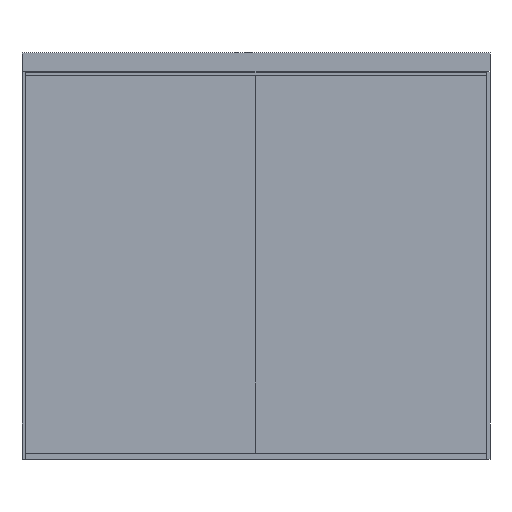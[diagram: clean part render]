
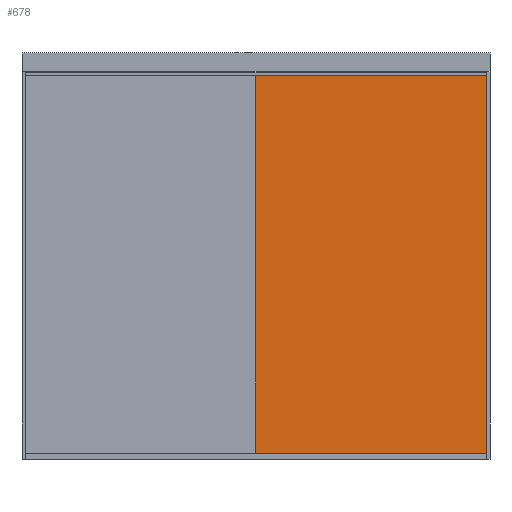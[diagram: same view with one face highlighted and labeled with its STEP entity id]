
A CAD part, front view. The second image highlights one B-rep face of the part: STEP entity #678.
In plain terms, the highlighted planar face has unit normal (0, -1, 0).
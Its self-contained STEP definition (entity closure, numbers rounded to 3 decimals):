
#678=ADVANCED_FACE('',(#1668),#1669,.T.);
#1668=FACE_OUTER_BOUND('',#3027,.T.);
#1669=PLANE('',#3028);
#3027=EDGE_LOOP('',(#4915,#4916,#4917,#4918));
#3028=AXIS2_PLACEMENT_3D('',#4919,#4920,#4921);
#4915=ORIENTED_EDGE('',*,*,#8084,.T.);
#4916=ORIENTED_EDGE('',*,*,#8085,.T.);
#4917=ORIENTED_EDGE('',*,*,#8086,.F.);
#4918=ORIENTED_EDGE('',*,*,#8087,.F.);
#4919=CARTESIAN_POINT('',(1326.0,0.0,35.));
#4920=DIRECTION('',(0.0,-1.0,0.0));
#4921=DIRECTION('',(1.0,0.0,0.0));
#8084=EDGE_CURVE('',#9728,#9729,#9730,.T.);
#8085=EDGE_CURVE('',#9729,#9731,#9732,.T.);
#8086=EDGE_CURVE('',#9733,#9731,#9734,.T.);
#8087=EDGE_CURVE('',#9728,#9733,#9735,.T.);
#9728=VERTEX_POINT('',#12052);
#9729=VERTEX_POINT('',#12053);
#9730=LINE('',#12054,#12055);
#9731=VERTEX_POINT('',#12056);
#9732=LINE('',#12057,#12058);
#9733=VERTEX_POINT('',#12059);
#9734=LINE('',#12060,#12061);
#9735=LINE('',#12062,#12063);
#12052=CARTESIAN_POINT('',(1264.0,0.0,32.));
#12053=CARTESIAN_POINT('',(2519.0,0.0,32.));
#12054=CARTESIAN_POINT('',(1326.0,0.0,32.));
#12055=VECTOR('',#14566,1.0);
#12056=CARTESIAN_POINT('',(2519.0,0.0,2080.0));
#12057=CARTESIAN_POINT('',(2519.0,0.0,35.));
#12058=VECTOR('',#14567,1.0);
#12059=CARTESIAN_POINT('',(1264.0,0.0,2080.0));
#12060=CARTESIAN_POINT('',(1326.0,0.0,2080.0));
#12061=VECTOR('',#14568,1.0);
#12062=CARTESIAN_POINT('',(1264.0,0.0,35.));
#12063=VECTOR('',#14569,1.0);
#14566=DIRECTION('',(1.0,0.0,0.0));
#14567=DIRECTION('',(0.0,0.0,1.0));
#14568=DIRECTION('',(1.0,0.0,0.0));
#14569=DIRECTION('',(0.0,0.0,1.0));
